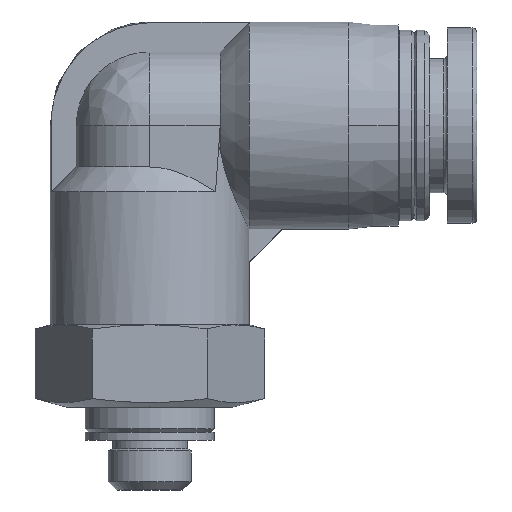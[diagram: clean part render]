
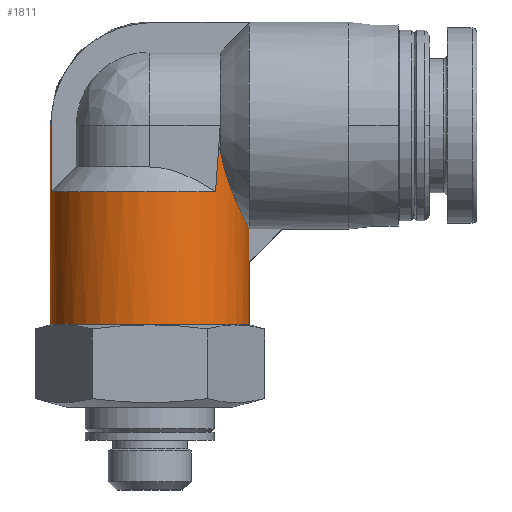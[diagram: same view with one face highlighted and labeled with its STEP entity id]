
A CAD part, front view. The second image highlights one B-rep face of the part: STEP entity #1811.
In plain terms, the highlighted cylindrical face has radius 6 mm (diameter 12 mm), a partial arc.
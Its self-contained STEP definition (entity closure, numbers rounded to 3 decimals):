
#3 =( BOUNDED_CURVE ( )  B_SPLINE_CURVE ( 3, ( #2269, #2247, #2294, #2265 ),
 .UNSPECIFIED., .F., .F. ) 
 B_SPLINE_CURVE_WITH_KNOTS ( ( 4, 4 ),
 ( 6.2, 6.283 ),
 .UNSPECIFIED. ) 
 CURVE ( )  GEOMETRIC_REPRESENTATION_ITEM ( )  RATIONAL_B_SPLINE_CURVE ( ( 1., 0.999, 0.999, 1. ) ) 
 REPRESENTATION_ITEM ( '' )  );
#17 = CARTESIAN_POINT ( 'NONE',  ( 5.979, -0.5, 13.729 ) ) ;
#63 = CARTESIAN_POINT ( 'NONE',  ( -6., 0., 10. ) ) ;
#105 = B_SPLINE_CURVE_WITH_KNOTS ( 'NONE', 3,
 ( #1977, #1827, #2005, #2008, #2012, #2016, #2022, #2026, #2031, #2034, #2042, #2048, #2056, #2062, #2077, #2087 ),
 .UNSPECIFIED., .F., .F.,
 ( 4, 2, 2, 2, 2, 2, 2, 4 ),
 ( 0., 0.002, 0.003, 0.004, 0.005, 0.005, 0.006, 0.007 ),
 .UNSPECIFIED. ) ;
#113 = EDGE_CURVE ( 'NONE', #829, #1761, #1446, .T. ) ;
#114 = CARTESIAN_POINT ( 'NONE',  ( 4.189, -4.296, 20.657 ) ) ;
#176 = EDGE_CURVE ( 'NONE', #1761, #765, #336, .T. ) ;
#209 = VECTOR ( 'NONE', #2105, 1000. ) ;
#216 = LINE ( 'NONE', #1996, #209 ) ;
#218 = VECTOR ( 'NONE', #1915, 1000. ) ;
#225 = LINE ( 'NONE', #1954, #218 ) ;
#231 = EDGE_CURVE ( 'NONE', #2995, #1487, #389, .T. ) ;
#263 = EDGE_CURVE ( 'NONE', #765, #2966, #354, .T. ) ;
#288 = DIRECTION ( 'NONE',  ( 0., 0., 1. ) ) ;
#291 = FACE_OUTER_BOUND ( 'NONE', #2731, .T. ) ;
#301 = CYLINDRICAL_SURFACE ( 'NONE', #2819, 6. ) ;
#314 = EDGE_CURVE ( 'NONE', #2805, #2652, #3, .T. ) ;
#336 = B_SPLINE_CURVE_WITH_KNOTS ( 'NONE', 3,
 ( #2908, #2963, #2894, #2887 ),
 .UNSPECIFIED., .F., .F.,
 ( 4, 4 ),
 ( 0., 1. ),
 .UNSPECIFIED. ) ;
#354 = CIRCLE ( 'NONE', #2122, 6. ) ;
#371 = CARTESIAN_POINT ( 'NONE',  ( 0., 0., 10. ) ) ;
#389 = CIRCLE ( 'NONE', #1673, 6. ) ;
#405 = CARTESIAN_POINT ( 'NONE',  ( 4.218, -4.267, 20.568 ) ) ;
#418 = EDGE_CURVE ( 'NONE', #2698, #2805, #225, .T. ) ;
#427 = CARTESIAN_POINT ( 'NONE',  ( 6., 0., 13.75 ) ) ;
#430 = CARTESIAN_POINT ( 'NONE',  ( 3.969, -4.5, 18. ) ) ;
#435 = EDGE_CURVE ( 'NONE', #829, #2698, #105, .T. ) ;
#437 = EDGE_CURVE ( 'NONE', #1501, #2966, #216, .T. ) ;
#445 = EDGE_CURVE ( 'NONE', #1158, #1501, #607, .T. ) ;
#454 = LINE ( 'NONE', #1906, #458 ) ;
#458 = VECTOR ( 'NONE', #1908, 1000. ) ;
#607 = B_SPLINE_CURVE_WITH_KNOTS ( 'NONE', 3,
 ( #2131, #2096, #1994, #2135 ),
 .UNSPECIFIED., .F., .F.,
 ( 4, 4 ),
 ( 0., 1. ),
 .UNSPECIFIED. ) ;
#740 = EDGE_CURVE ( 'NONE', #2995, #1158, #756, .T. ) ;
#756 = LINE ( 'NONE', #1049, #1958 ) ;
#765 = VERTEX_POINT ( 'NONE', #430 ) ;
#829 = VERTEX_POINT ( 'NONE', #1203 ) ;
#917 = DIRECTION ( 'NONE',  ( 1., 0., 0. ) ) ;
#982 = ORIENTED_EDGE ( 'NONE', *, *, #1616, .T. ) ;
#990 = ORIENTED_EDGE ( 'NONE', *, *, #418, .F. ) ;
#1049 = CARTESIAN_POINT ( 'NONE',  ( -6., 0., 10. ) ) ;
#1158 = VERTEX_POINT ( 'NONE', #1911 ) ;
#1203 = CARTESIAN_POINT ( 'NONE',  ( 4.25, -4.235, 20.479 ) ) ;
#1222 = CARTESIAN_POINT ( 'NONE',  ( 4.162, -4.322, 20.747 ) ) ;
#1446 = B_SPLINE_CURVE_WITH_KNOTS ( 'NONE', 3,
 ( #2996, #405, #114, #2994 ),
 .UNSPECIFIED., .F., .F.,
 ( 4, 4 ),
 ( 0., 1. ),
 .UNSPECIFIED. ) ;
#1487 = VERTEX_POINT ( 'NONE', #1767 ) ;
#1501 = VERTEX_POINT ( 'NONE', #1511 ) ;
#1511 = CARTESIAN_POINT ( 'NONE',  ( -5.953, -0.75, 22. ) ) ;
#1616 = EDGE_CURVE ( 'NONE', #1487, #2652, #454, .T. ) ;
#1651 = ORIENTED_EDGE ( 'NONE', *, *, #740, .F. ) ;
#1673 = AXIS2_PLACEMENT_3D ( 'NONE', #2715, #2707, #917 ) ;
#1732 = ORIENTED_EDGE ( 'NONE', *, *, #113, .T. ) ;
#1761 = VERTEX_POINT ( 'NONE', #1222 ) ;
#1767 = CARTESIAN_POINT ( 'NONE',  ( 6., 0., 10. ) ) ;
#1796 = ORIENTED_EDGE ( 'NONE', *, *, #314, .F. ) ;
#1811 = ADVANCED_FACE ( '49', ( #291 ), #301, .T. ) ;
#1827 = CARTESIAN_POINT ( 'NONE',  ( 4.344, -4.141, 19.94 ) ) ;
#1906 = CARTESIAN_POINT ( 'NONE',  ( 6., 0., 10. ) ) ;
#1908 = DIRECTION ( 'NONE',  ( 0., 0., 1. ) ) ;
#1911 = CARTESIAN_POINT ( 'NONE',  ( -6., 0., 22. ) ) ;
#1915 = DIRECTION ( 'NONE',  ( 0., 0., -1. ) ) ;
#1921 = ORIENTED_EDGE ( 'NONE', *, *, #435, .F. ) ;
#1954 = CARTESIAN_POINT ( 'NONE',  ( 5.979, -0.5, 15.803 ) ) ;
#1958 = VECTOR ( 'NONE', #288, 1000. ) ;
#1977 = CARTESIAN_POINT ( 'NONE',  ( 4.25, -4.235, 20.479 ) ) ;
#1978 = ORIENTED_EDGE ( 'NONE', *, *, #437, .F. ) ;
#1994 = CARTESIAN_POINT ( 'NONE',  ( -5.984, -0.501, 22. ) ) ;
#1996 = CARTESIAN_POINT ( 'NONE',  ( -5.953, -0.75, 22. ) ) ;
#2005 = CARTESIAN_POINT ( 'NONE',  ( 4.479, -4., 19.428 ) ) ;
#2008 = CARTESIAN_POINT ( 'NONE',  ( 4.794, -3.617, 18.449 ) ) ;
#2012 = CARTESIAN_POINT ( 'NONE',  ( 4.975, -3.372, 17.979 ) ) ;
#2016 = CARTESIAN_POINT ( 'NONE',  ( 5.243, -2.923, 17.343 ) ) ;
#2022 = CARTESIAN_POINT ( 'NONE',  ( 5.332, -2.759, 17.141 ) ) ;
#2026 = CARTESIAN_POINT ( 'NONE',  ( 5.505, -2.395, 16.762 ) ) ;
#2031 = CARTESIAN_POINT ( 'NONE',  ( 5.588, -2.196, 16.585 ) ) ;
#2034 = CARTESIAN_POINT ( 'NONE',  ( 5.701, -1.874, 16.351 ) ) ;
#2042 = CARTESIAN_POINT ( 'NONE',  ( 5.736, -1.763, 16.278 ) ) ;
#2048 = CARTESIAN_POINT ( 'NONE',  ( 5.803, -1.531, 16.143 ) ) ;
#2055 = CARTESIAN_POINT ( 'NONE',  ( -5.953, -0.75, 18. ) ) ;
#2056 = CARTESIAN_POINT ( 'NONE',  ( 5.834, -1.409, 16.08 ) ) ;
#2062 = CARTESIAN_POINT ( 'NONE',  ( 5.915, -1.036, 15.916 ) ) ;
#2077 = CARTESIAN_POINT ( 'NONE',  ( 5.956, -0.775, 15.836 ) ) ;
#2087 = CARTESIAN_POINT ( 'NONE',  ( 5.979, -0.5, 15.791 ) ) ;
#2096 = CARTESIAN_POINT ( 'NONE',  ( -6., -0.251, 22. ) ) ;
#2105 = DIRECTION ( 'NONE',  ( 0., 0., -1. ) ) ;
#2122 = AXIS2_PLACEMENT_3D ( 'NONE', #2540, #2536, #2532 ) ;
#2131 = CARTESIAN_POINT ( 'NONE',  ( -6., 0., 22. ) ) ;
#2135 = CARTESIAN_POINT ( 'NONE',  ( -5.953, -0.75, 22. ) ) ;
#2247 = CARTESIAN_POINT ( 'NONE',  ( 5.993, -0.334, 13.743 ) ) ;
#2265 = CARTESIAN_POINT ( 'NONE',  ( 6., 0., 13.75 ) ) ;
#2269 = CARTESIAN_POINT ( 'NONE',  ( 5.979, -0.5, 13.729 ) ) ;
#2294 = CARTESIAN_POINT ( 'NONE',  ( 6., -0.167, 13.75 ) ) ;
#2346 = DIRECTION ( 'NONE',  ( 0., 0., 1. ) ) ;
#2365 = ORIENTED_EDGE ( 'NONE', *, *, #176, .T. ) ;
#2532 = DIRECTION ( 'NONE',  ( 1., 0., 0. ) ) ;
#2535 = ORIENTED_EDGE ( 'NONE', *, *, #231, .T. ) ;
#2536 = DIRECTION ( 'NONE',  ( 0., 0., -1. ) ) ;
#2540 = CARTESIAN_POINT ( 'NONE',  ( 0., 0., 18. ) ) ;
#2652 = VERTEX_POINT ( 'NONE', #427 ) ;
#2698 = VERTEX_POINT ( 'NONE', #2750 ) ;
#2707 = DIRECTION ( 'NONE',  ( 0., 0., 1. ) ) ;
#2715 = CARTESIAN_POINT ( 'NONE',  ( 0., 0., 10. ) ) ;
#2731 = EDGE_LOOP ( 'NONE', ( #1651, #2535, #982, #1796, #990, #1921, #1732, #2365, #2928, #1978, #2741 ) ) ;
#2741 = ORIENTED_EDGE ( 'NONE', *, *, #445, .F. ) ;
#2750 = CARTESIAN_POINT ( 'NONE',  ( 5.979, -0.5, 15.791 ) ) ;
#2805 = VERTEX_POINT ( 'NONE', #17 ) ;
#2819 = AXIS2_PLACEMENT_3D ( 'NONE', #371, #2346, #2863 ) ;
#2863 = DIRECTION ( 'NONE',  ( 1., 0., 0. ) ) ;
#2887 = CARTESIAN_POINT ( 'NONE',  ( 3.969, -4.5, 18. ) ) ;
#2894 = CARTESIAN_POINT ( 'NONE',  ( 4.035, -4.442, 18.941 ) ) ;
#2908 = CARTESIAN_POINT ( 'NONE',  ( 4.162, -4.322, 20.747 ) ) ;
#2928 = ORIENTED_EDGE ( 'NONE', *, *, #263, .T. ) ;
#2963 = CARTESIAN_POINT ( 'NONE',  ( 4.099, -4.382, 19.857 ) ) ;
#2966 = VERTEX_POINT ( 'NONE', #2055 ) ;
#2994 = CARTESIAN_POINT ( 'NONE',  ( 4.162, -4.322, 20.747 ) ) ;
#2995 = VERTEX_POINT ( 'NONE', #63 ) ;
#2996 = CARTESIAN_POINT ( 'NONE',  ( 4.25, -4.235, 20.479 ) ) ;
